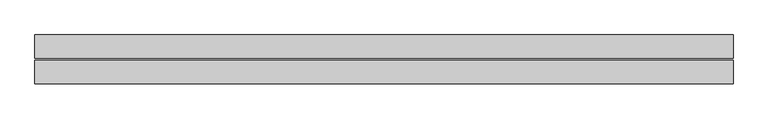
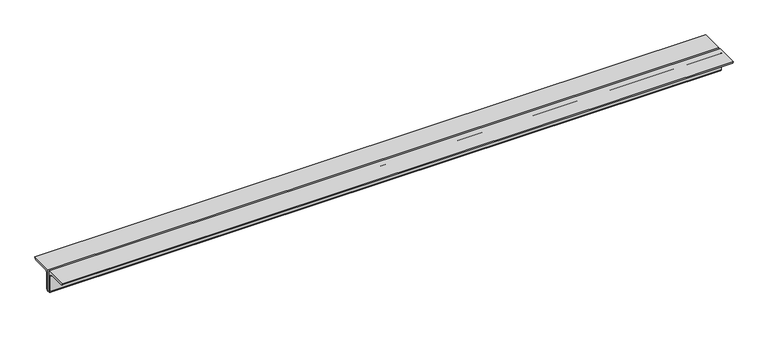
"""IFC4 building model written with IfcOpenShell, lengths in millimetres: beam geometry, Profilati doppi a L : DCED150x12."""

from ifc_helpers import new_model, si_unit, point, frame, frame_2d, origin, place, context, project, spatial, polyline, circle_curve, trimmed, segment, composite_curve, outline, extrude, source, transform, mapped, element, save


def beam_b6fad6b5(model_context):
    return source(origin(), model_context, "Body", "SweptSolid", [
        extrude(outline(composite_curve([segment(polyline([(6.0, 42.4), (156.0, 42.4)]), True, "CONTINUOUS"), segment(trimmed(circle_curve(frame_2d((141.0, 42.4)), 15.0), [point((156.0, 42.4))], [point((141.0, 27.4))], False, "CARTESIAN"), True, "CONTINUOUS"), segment(polyline([(141.0, 27.4), (36.0, 27.4)]), True, "CONTINUOUS"), segment(trimmed(circle_curve(frame_2d((36.0, 12.4)), 15.0), [point((36.0, 27.4))], [point((21.0, 12.4))], True, "CARTESIAN"), True, "CONTINUOUS"), segment(polyline([(21.0, 12.4), (21.0, -92.6)]), True, "CONTINUOUS"), segment(trimmed(circle_curve(frame_2d((6.0, -92.6)), 15.0), [point((21.0, -92.6))], [point((6.0, -107.6))], False, "CARTESIAN"), True, "CONTINUOUS"), segment(polyline([(6.0, -107.6), (6.0, 42.4)]), True, "CONTINUOUS")], self_intersect=False)), frame((-2115.0, 0.0, 0.0), z_axis=(1.0, 0.0, 0.0), x_axis=(0.0, 1.0, 0.0)), (0.0, 0.0, 1.0), 4445.0),
        extrude(outline(composite_curve([segment(polyline([(-6.0, 42.4), (-6.0, -107.6)]), True, "CONTINUOUS"), segment(trimmed(circle_curve(frame_2d((-6.0, -92.6)), 15.0), [point((-6.0, -107.6))], [point((-21.0, -92.6))], False, "CARTESIAN"), True, "CONTINUOUS"), segment(polyline([(-21.0, -92.6), (-21.0, 12.4)]), True, "CONTINUOUS"), segment(trimmed(circle_curve(frame_2d((-36.0, 12.4)), 15.0), [point((-21.0, 12.4))], [point((-36.0, 27.4))], True, "CARTESIAN"), True, "CONTINUOUS"), segment(polyline([(-36.0, 27.4), (-141.0, 27.4)]), True, "CONTINUOUS"), segment(trimmed(circle_curve(frame_2d((-141.0, 42.4)), 15.0), [point((-141.0, 27.4))], [point((-156.0, 42.4))], False, "CARTESIAN"), True, "CONTINUOUS"), segment(polyline([(-156.0, 42.4), (-6.0, 42.4)]), True, "CONTINUOUS")], self_intersect=False)), frame((-2115.0, 0.0, 0.0), z_axis=(1.0, 0.0, 0.0), x_axis=(0.0, 1.0, 0.0)), (0.0, 0.0, 1.0), 4445.0),
    ])


if __name__ == "__main__":
    model = new_model("IFC4")
    model_context = context("Model", 3, world=origin())
    ifc_project = project(units=[si_unit("LENGTHUNIT", "METRE", prefix="MILLI")], contexts=[model_context])
    site = spatial("IfcSite", under=ifc_project)
    building = spatial("IfcBuilding", under=site)
    placement = place(None, origin())
    beam_shape = beam_b6fad6b5(model_context)
    element("IfcBeam", 1, ObjectType="Profilati doppi a L : DCED150x12", at=placement, inside=building, context=model_context, shape_type="MappedRepresentation", body=[
        mapped(beam_shape, transform((0.0, 0.0, 0.0), x_axis=(1.0, 0.0, 0.0), y_axis=(0.0, 1.0, 0.0), z_axis=(0.0, 0.0, 1.0))),
    ])
    save(model, "model.ifc")
